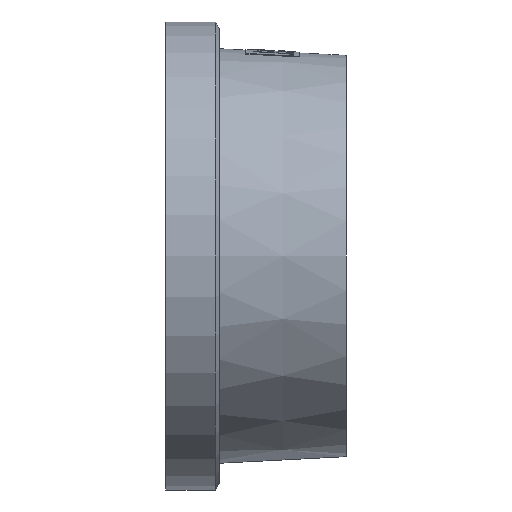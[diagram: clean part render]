
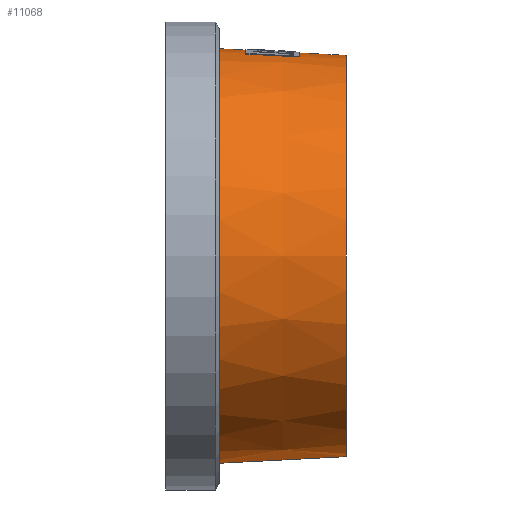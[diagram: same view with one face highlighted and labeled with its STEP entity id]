
A CAD part, left-side view. The second image highlights one B-rep face of the part: STEP entity #11068.
In plain terms, the highlighted conical face has half-angle 3 degrees and reference radius 30.004 mm.
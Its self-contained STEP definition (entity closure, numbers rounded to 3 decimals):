
#19 = CARTESIAN_POINT ( 'NONE',  ( 0., 15., 0. ) ) ;
#21 = DIRECTION ( 'NONE',  ( 0., -1., 0. ) ) ;
#28 = DIRECTION ( 'NONE',  ( 1., 0., 0. ) ) ;
#90 = DIRECTION ( 'NONE',  ( 0., 0., 1. ) ) ;
#93 = CARTESIAN_POINT ( 'NONE',  ( 0., 19., 0. ) ) ;
#97 = DIRECTION ( 'NONE',  ( 0., 1., 0. ) ) ;
#140 = DIRECTION ( 'NONE',  ( 0., 1., 0. ) ) ;
#147 = CARTESIAN_POINT ( 'NONE',  ( 0., 7., 0. ) ) ;
#161 = DIRECTION ( 'NONE',  ( -1., 0., 0. ) ) ;
#503 = CARTESIAN_POINT ( 'NONE',  ( 0., 0., 0. ) ) ;
#504 = DIRECTION ( 'NONE',  ( 0., 0., 1. ) ) ;
#505 = DIRECTION ( 'NONE',  ( 0., 1., 0. ) ) ;
#823 = CIRCLE ( 'NONE', #14239, 30.79 ) ;
#829 = CIRCLE ( 'NONE', #14261, 31. ) ;
#832 = CIRCLE ( 'NONE', #14263, 30.004 ) ;
#872 = CIRCLE ( 'NONE', #14224, 30.371 ) ;
#991 = FACE_OUTER_BOUND ( 'NONE', #4292, .T. ) ;
#1005 = CONICAL_SURFACE ( 'NONE', #14358, 30.004, 0.052 ) ;
#1414 = LINE ( 'NONE', #3336, #1457 ) ;
#1431 = LINE ( 'NONE', #3500, #1456 ) ;
#1456 = VECTOR ( 'NONE', #3515, 1000. ) ;
#1457 = VECTOR ( 'NONE', #3337, 1000. ) ;
#1501 = VECTOR ( 'NONE', #3584, 1000. ) ;
#1512 = LINE ( 'NONE', #3579, #1501 ) ;
#2107 = CARTESIAN_POINT ( 'NONE',  ( -6., 15., 30.2 ) ) ;
#2200 = CARTESIAN_POINT ( 'NONE',  ( -6., 7., 29.773 ) ) ;
#3336 = CARTESIAN_POINT ( 'NONE',  ( 0., 0., 30.004 ) ) ;
#3337 = DIRECTION ( 'NONE',  ( 0., 0.999, 0.052 ) ) ;
#3500 = CARTESIAN_POINT ( 'NONE',  ( 0., 0., -30.004 ) ) ;
#3515 = DIRECTION ( 'NONE',  ( 0., 0.999, -0.052 ) ) ;
#3579 = CARTESIAN_POINT ( 'NONE',  ( 0., 0., 30.004 ) ) ;
#3584 = DIRECTION ( 'NONE',  ( 0., 0.999, 0.052 ) ) ;
#4292 = EDGE_LOOP ( 'NONE', ( #12065, #12023, #12020, #12066, #12047, #12063, #12039, #12035 ) ) ;
#4635 = CARTESIAN_POINT ( 'NONE',  ( 0., 0., 30.004 ) ) ;
#4643 = CARTESIAN_POINT ( 'NONE',  ( 0., 19., 31. ) ) ;
#4672 = CARTESIAN_POINT ( 'NONE',  ( 0., 0., -30.004 ) ) ;
#4705 = CARTESIAN_POINT ( 'NONE',  ( 0., 15., 30.79 ) ) ;
#4707 = CARTESIAN_POINT ( 'NONE',  ( 0., 7., 30.371 ) ) ;
#4715 = CARTESIAN_POINT ( 'NONE',  ( 0., 19., -31. ) ) ;
#7102 = CARTESIAN_POINT ( 'NONE',  ( -6., 12.67, 30.076 ) ) ;
#10682 = B_SPLINE_CURVE_WITH_KNOTS ( 'NONE', 3,
 ( #15247, #7102, #15210, #15236, #15248, #15228, #15222 ),
 .UNSPECIFIED., .F., .F.,
 ( 4, 3, 4 ),
 ( 0.009, 0.016, 0.017 ),
 .UNSPECIFIED. ) ;
#10823 = EDGE_CURVE ( 'NONE', #12999, #12945, #832, .T. ) ;
#10834 = EDGE_CURVE ( 'NONE', #11438, #11532, #10682, .T. ) ;
#10849 = EDGE_CURVE ( 'NONE', #13001, #11438, #823, .T. ) ;
#10864 = EDGE_CURVE ( 'NONE', #12992, #13004, #829, .T. ) ;
#10880 = EDGE_CURVE ( 'NONE', #11532, #13008, #872, .T. ) ;
#11068 = ADVANCED_FACE ( 'NONE', ( #991 ), #1005, .T. ) ;
#11438 = VERTEX_POINT ( 'NONE', #2107 ) ;
#11532 = VERTEX_POINT ( 'NONE', #2200 ) ;
#12020 = ORIENTED_EDGE ( 'NONE', *, *, #12667, .T. ) ;
#12023 = ORIENTED_EDGE ( 'NONE', *, *, #10823, .T. ) ;
#12035 = ORIENTED_EDGE ( 'NONE', *, *, #10864, .F. ) ;
#12039 = ORIENTED_EDGE ( 'NONE', *, *, #12603, .T. ) ;
#12047 = ORIENTED_EDGE ( 'NONE', *, *, #10834, .F. ) ;
#12063 = ORIENTED_EDGE ( 'NONE', *, *, #10849, .F. ) ;
#12065 = ORIENTED_EDGE ( 'NONE', *, *, #12643, .F. ) ;
#12066 = ORIENTED_EDGE ( 'NONE', *, *, #10880, .F. ) ;
#12603 = EDGE_CURVE ( 'NONE', #13001, #13004, #1414, .T. ) ;
#12643 = EDGE_CURVE ( 'NONE', #12999, #12992, #1431, .T. ) ;
#12667 = EDGE_CURVE ( 'NONE', #12945, #13008, #1512, .T. ) ;
#12945 = VERTEX_POINT ( 'NONE', #4635 ) ;
#12992 = VERTEX_POINT ( 'NONE', #4715 ) ;
#12999 = VERTEX_POINT ( 'NONE', #4672 ) ;
#13001 = VERTEX_POINT ( 'NONE', #4705 ) ;
#13004 = VERTEX_POINT ( 'NONE', #4643 ) ;
#13008 = VERTEX_POINT ( 'NONE', #4707 ) ;
#14224 = AXIS2_PLACEMENT_3D ( 'NONE', #147, #140, #161 ) ;
#14239 = AXIS2_PLACEMENT_3D ( 'NONE', #19, #21, #28 ) ;
#14261 = AXIS2_PLACEMENT_3D ( 'NONE', #93, #97, #90 ) ;
#14263 = AXIS2_PLACEMENT_3D ( 'NONE', #15188, #15202, #15201 ) ;
#14358 = AXIS2_PLACEMENT_3D ( 'NONE', #503, #505, #504 ) ;
#15188 = CARTESIAN_POINT ( 'NONE',  ( 0., 0., 0. ) ) ;
#15201 = DIRECTION ( 'NONE',  ( 0., 0., 1. ) ) ;
#15202 = DIRECTION ( 'NONE',  ( 0., 1., 0. ) ) ;
#15210 = CARTESIAN_POINT ( 'NONE',  ( -6., 10.34, 29.951 ) ) ;
#15222 = CARTESIAN_POINT ( 'NONE',  ( -6., 7., 29.773 ) ) ;
#15228 = CARTESIAN_POINT ( 'NONE',  ( -6., 7.336, 29.791 ) ) ;
#15236 = CARTESIAN_POINT ( 'NONE',  ( -6., 8.009, 29.826 ) ) ;
#15247 = CARTESIAN_POINT ( 'NONE',  ( -6., 15., 30.2 ) ) ;
#15248 = CARTESIAN_POINT ( 'NONE',  ( -6., 7.673, 29.809 ) ) ;
